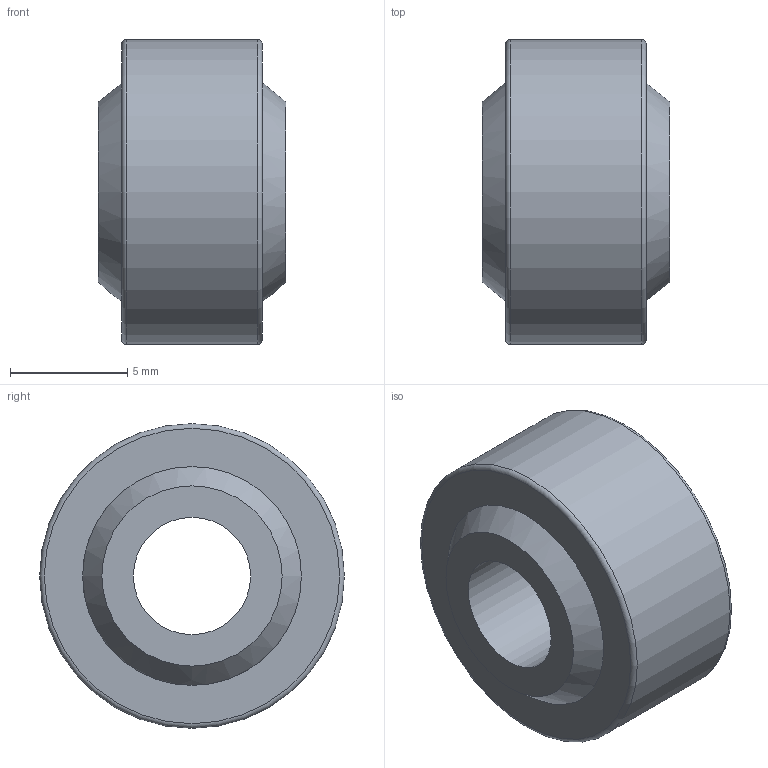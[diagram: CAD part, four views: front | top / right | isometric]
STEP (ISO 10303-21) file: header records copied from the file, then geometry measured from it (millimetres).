
FILE_DESCRIPTION( ( 'STEP AP203' ), '1' );
FILE_NAME( 'C:/Temp/Ganter_Step_05_03_2020/data/3_6/gn_648_8/gn_648_8_n/Ball joint GN 648.8-5-13-N.stp', '2020-03-12T14:14:22', ( 'License CC BY-ND 4.0' ), ( 'CADENAS' ), ' ', 'PARTsolutions', ' ' );
FILE_SCHEMA( ( 'CONFIG_CONTROL_DESIGN' ) );
Length unit declared in the file: millimetre
Products named in the file (3): Ball joint GN 648.8-5-13-N; _Ball joint GN 648.8-5-13-N-2; _Ball joint GN 648.8-5-13-N-1
Assembly tree (2 placements, depth 2):
  Ball joint GN 648.8-5-13-N
    _Ball joint GN 648.8-5-13-N-2
    _Ball joint GN 648.8-5-13-N-1
Bounding box: 8 x 13 x 13 mm (x, y, z)
Volume: 754.7 mm3; surface area: 1034.1 mm2
Topology: 2 solids, 2 shells, 10 faces, 16 edges, 10 vertices
Faces by surface type: plane 4, sphere 2, torus 2, cylinder 2
Full cylindrical faces by diameter (mm): 5 x1, 13 x1
Entity records: 320 total; most frequent: DIRECTION 46, CARTESIAN_POINT 33, AXIS2_PLACEMENT_3D 23, EDGE_LOOP 20, ORIENTED_EDGE 20, FACE_OUTER_BOUND 16, CC_DESIGN_PERSON_AND_ORGANIZATION_ASSIGNMENT 13, ADVANCED_FACE 10
